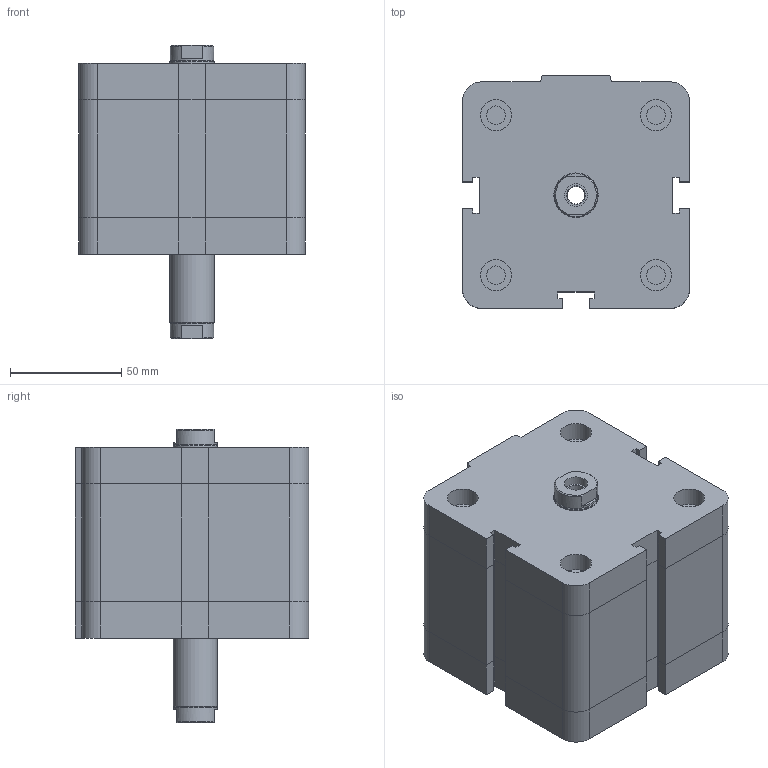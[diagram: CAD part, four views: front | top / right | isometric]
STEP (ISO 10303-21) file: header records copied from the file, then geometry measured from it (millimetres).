
FILE_DESCRIPTION((''),'2;1');
FILE_NAME('I:\Area Tecnica\Disegni\VARIE-3D\Componenti\EUROPE\15##_###_####_06_#\1561_80_0030_06_1.iam.stp','2009-04-20T15:06:47',(''),(''),'Autodesk Inventor 2009','Autodesk Inventor 2009','');
FILE_SCHEMA(('AUTOMOTIVE_DESIGN { 1 0 10303 214 1 1 1 1 }'));
Length unit declared in the file: millimetre
Products named in the file (3): 1561_80_0030_06_1; 1561_80_0030_03_1_C; 1561_80_0030_06_1_S
Assembly tree (2 placements, depth 2):
  1561_80_0030_06_1
    1561_80_0030_03_1_C
    1561_80_0030_06_1_S
Bounding box: 102 x 105 x 132 mm (x, y, z)
Volume: 860000.3 mm3; surface area: 84016.8 mm2
Topology: 2 solids, 2 shells, 175 faces, 382 edges, 233 vertices
Faces by surface type: plane 114, bspline 30, cylinder 25, cone 6
Full cylindrical faces by diameter (mm): 8.376 x5, 10.3 x1, 14 x4, 19.5 x2, 20 x1
Entity records: 4805 total; most frequent: CARTESIAN_POINT 1042, DIRECTION 712, ORIENTED_EDGE 680, EDGE_CURVE 340, VECTOR 252, LINE 252, AXIS2_PLACEMENT_3D 230, EDGE_LOOP 230
